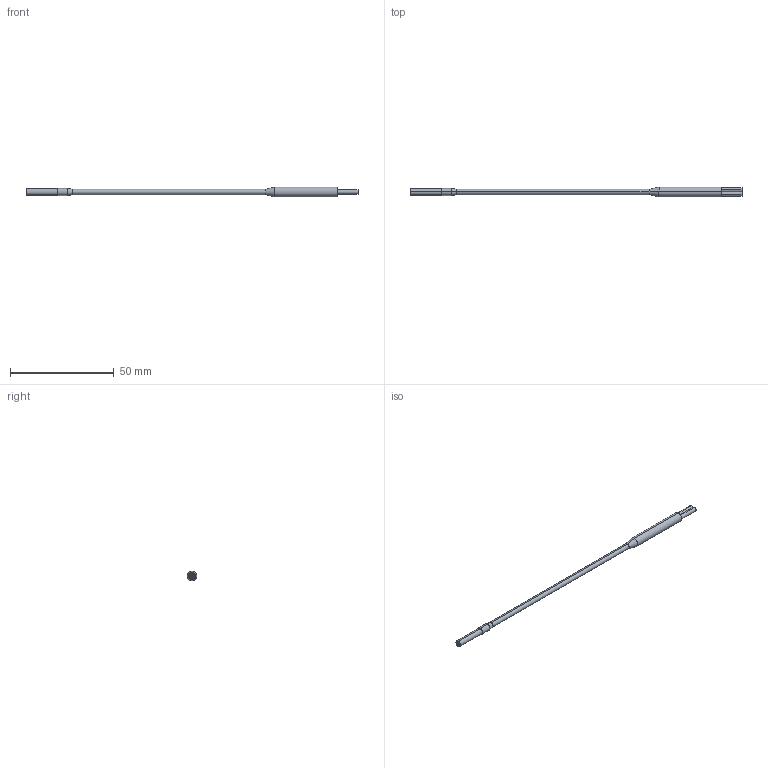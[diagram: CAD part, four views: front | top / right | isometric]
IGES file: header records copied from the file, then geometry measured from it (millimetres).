
Start section: SolidWorks IGES file using analytic representation for surfaces
Global section: file name: C:\Documents and Settings\CAD53\デスクトップ\センサー系\041414.IGS; native system: SolidWorks 2006 by SolidWorks Corporation; preprocessor: SolidWorks 2006 by SolidWorks Corporation; author: CAD53; date: 071015.125451; units: millimetre
Bounding box: 160 x 4.7 x 4.7 mm (x, y, z)
Surface area: 1633.3 mm2 (no closed solid volume)
Topology: 0 solids, 0 shells, 35 faces, 464 edges, 464 vertices
Faces by surface type: revolution 28, bspline 7
